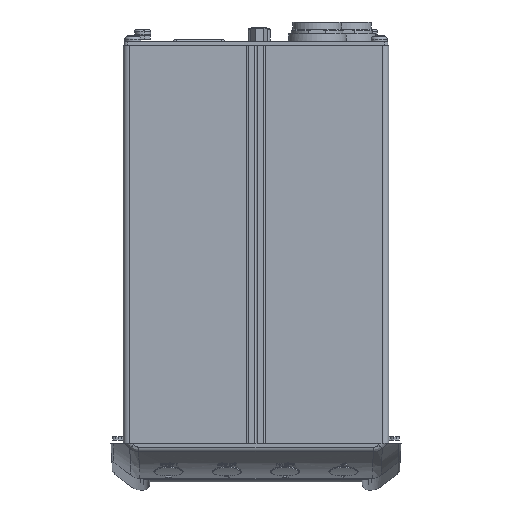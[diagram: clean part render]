
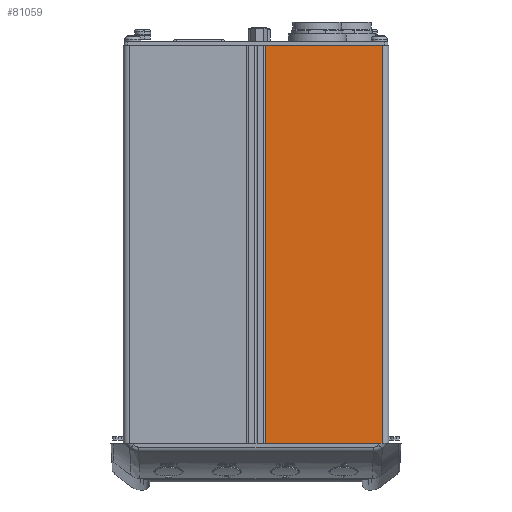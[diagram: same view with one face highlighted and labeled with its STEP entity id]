
A CAD part, front view. The second image highlights one B-rep face of the part: STEP entity #81059.
In plain terms, the highlighted planar face has unit normal (0, -1, 0).
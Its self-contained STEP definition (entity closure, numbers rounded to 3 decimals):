
#2264 = CARTESIAN_POINT ( 'NONE',  ( 43.5, -46., 16. ) ) ;
#3376 = VERTEX_POINT ( 'NONE', #45708 ) ;
#6330 = DIRECTION ( 'NONE',  ( 0., 0., -1. ) ) ;
#8141 = ORIENTED_EDGE ( 'NONE', *, *, #61880, .T. ) ;
#8142 = VECTOR ( 'NONE', #52369, 1000. ) ;
#10620 = EDGE_LOOP ( 'NONE', ( #67259, #8141, #24709, #68235 ) ) ;
#12293 = CARTESIAN_POINT ( 'NONE',  ( 43.5, -46., 152.5 ) ) ;
#21840 = CARTESIAN_POINT ( 'NONE',  ( -45.5, -46., 16. ) ) ;
#24709 = ORIENTED_EDGE ( 'NONE', *, *, #66639, .F. ) ;
#33737 = EDGE_CURVE ( 'NONE', #3376, #61526, #73373, .T. ) ;
#34380 = VERTEX_POINT ( 'NONE', #2264 ) ;
#34439 = CARTESIAN_POINT ( 'NONE',  ( -45.5, -46., 152.5 ) ) ;
#38468 = CARTESIAN_POINT ( 'NONE',  ( 43.5, -46., 152.5 ) ) ;
#41231 = LINE ( 'NONE', #86708, #77882 ) ;
#41405 = DIRECTION ( 'NONE',  ( 0., 0., 1. ) ) ;
#45395 = DIRECTION ( 'NONE',  ( 1., 0., 0. ) ) ;
#45409 = VECTOR ( 'NONE', #6330, 1000. ) ;
#45708 = CARTESIAN_POINT ( 'NONE',  ( 3.4, -46., 152.5 ) ) ;
#47753 = CARTESIAN_POINT ( 'NONE',  ( 3.4, -46., 16. ) ) ;
#49438 = VECTOR ( 'NONE', #63271, 1000. ) ;
#52369 = DIRECTION ( 'NONE',  ( 0., 0., 1. ) ) ;
#54748 = AXIS2_PLACEMENT_3D ( 'NONE', #34439, #82719, #41405 ) ;
#56876 = CARTESIAN_POINT ( 'NONE',  ( 3.4, -46., 16. ) ) ;
#61526 = VERTEX_POINT ( 'NONE', #56876 ) ;
#61880 = EDGE_CURVE ( 'NONE', #34380, #86703, #79389, .T. ) ;
#63271 = DIRECTION ( 'NONE',  ( 1., 0., 0. ) ) ;
#63894 = EDGE_CURVE ( 'NONE', #61526, #34380, #67745, .T. ) ;
#66639 = EDGE_CURVE ( 'NONE', #3376, #86703, #41231, .T. ) ;
#67259 = ORIENTED_EDGE ( 'NONE', *, *, #63894, .T. ) ;
#67745 = LINE ( 'NONE', #21840, #49438 ) ;
#68235 = ORIENTED_EDGE ( 'NONE', *, *, #33737, .T. ) ;
#71275 = FACE_OUTER_BOUND ( 'NONE', #10620, .T. ) ;
#73373 = LINE ( 'NONE', #47753, #45409 ) ;
#77882 = VECTOR ( 'NONE', #45395, 1000. ) ;
#79389 = LINE ( 'NONE', #38468, #8142 ) ;
#80559 = PLANE ( 'NONE',  #54748 ) ;
#81059 = ADVANCED_FACE ( 'NONE', ( #71275 ), #80559, .F. ) ;
#82719 = DIRECTION ( 'NONE',  ( 0., 1., 0. ) ) ;
#86703 = VERTEX_POINT ( 'NONE', #12293 ) ;
#86708 = CARTESIAN_POINT ( 'NONE',  ( -45.5, -46., 152.5 ) ) ;
